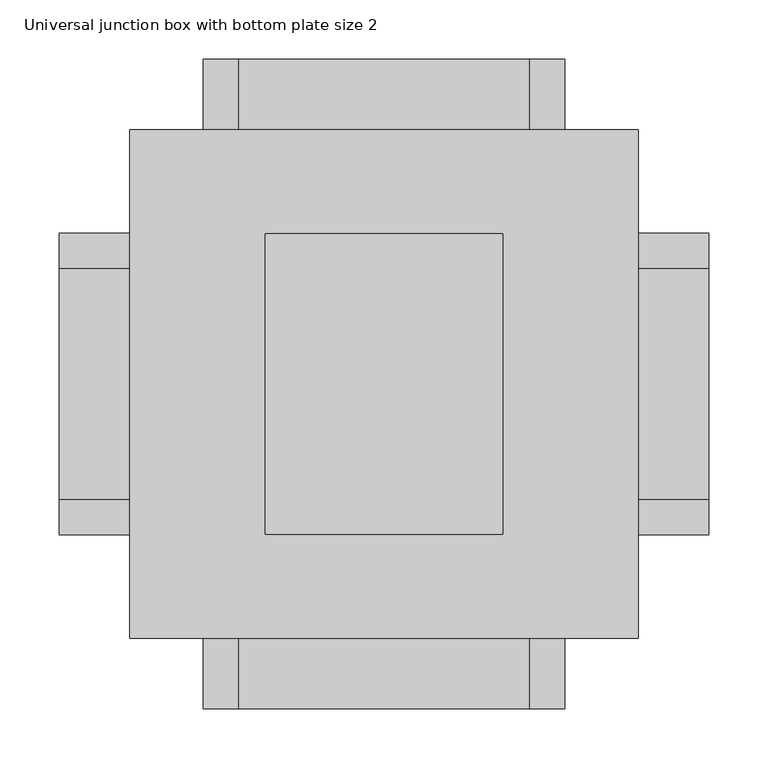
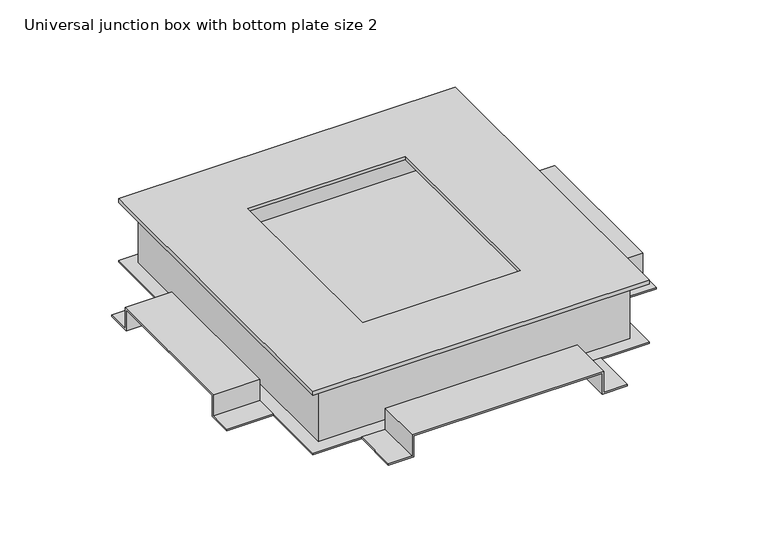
"""IFC4 building model written with IfcOpenShell, lengths in millimetres: cable carrier fitting geometry, Electrical-Installations_Hager_Universal-Junction-Box-With-Bottom-Plate-Size-2 : Universal junction box with bottom plate size 2."""

from ifc_helpers import new_model, si_unit, frame, origin, place, context, project, spatial, polyline, outline, extrude, faceted_brep, source, transform, mapped, element, save


def universal_junction_box_with_bottom_plate_size_2_3eebd924(model_context):
    return source(origin(), model_context, "Body", "SolidModel", [
        extrude(outline(polyline([(-14.0, -152.0), (-14.0, -120.0), (14.0, -120.0), (14.0, 120.0), (-14.0, 120.0), (-14.0, 152.0), (-12.0, 152.0), (-12.0, 122.0), (16.0, 122.0), (16.0, -122.0), (-12.0, -122.0), (-12.0, -152.0), (-14.0, -152.0)])), frame((0.0, 214.0, 0.0), z_axis=(0.0, 1.0, 0.0), x_axis=(0.0, 0.0, 1.0)), (0.0, 0.0, 1.0), 59.0),
        extrude(outline(polyline([(-127.0, -14.0), (-127.0, -12.0), (-97.0, -12.0), (-97.0, 16.0), (97.0, 16.0), (97.0, -12.0), (127.0, -12.0), (127.0, -14.0), (95.0, -14.0), (95.0, 14.0), (-95.0, 14.0), (-95.0, -14.0), (-127.0, -14.0)])), frame((-273.0, 0.0, 0.0), z_axis=(1.0, 0.0, 0.0), x_axis=(0.0, 1.0, 0.0)), (0.0, 0.0, 1.0), 59.0),
        extrude(outline(polyline([(-14.0, -152.0), (-14.0, -120.0), (14.0, -120.0), (14.0, 120.0), (-14.0, 120.0), (-14.0, 152.0), (-12.0, 152.0), (-12.0, 122.0), (16.0, 122.0), (16.0, -122.0), (-12.0, -122.0), (-12.0, -152.0), (-14.0, -152.0)])), frame((0.0, -273.0, 0.0), z_axis=(0.0, 1.0, 0.0), x_axis=(0.0, 0.0, 1.0)), (0.0, 0.0, 1.0), 59.0),
        extrude(outline(polyline([(-127.0, -14.0), (-127.0, -12.0), (-97.0, -12.0), (-97.0, 16.0), (97.0, 16.0), (97.0, -12.0), (127.0, -12.0), (127.0, -14.0), (95.0, -14.0), (95.0, 14.0), (-95.0, 14.0), (-95.0, -14.0), (-127.0, -14.0)])), frame((214.0, 0.0, 0.0), z_axis=(1.0, 0.0, 0.0), x_axis=(0.0, 1.0, 0.0)), (0.0, 0.0, 1.0), 59.0),
        faceted_brep([(-214.0, -214.0, 71.0), (214.0, -214.0, 71.0), (214.0, 214.0, 71.0), (-214.0, 214.0, 71.0), (-100.0, 126.5, 71.0), (100.0, 126.5, 71.0), (100.0, -126.5, 71.0), (-100.0, -126.5, 71.0), (-214.0, -214.0, 66.0), (-214.0, 214.0, 66.0), (214.0, 214.0, 66.0), (214.0, -214.0, 66.0), (192.0, 192.0, 66.0), (-192.0, 192.0, 66.0), (-192.0, -192.0, 66.0), (192.0, -192.0, 66.0), (-100.0, 126.5, 66.7820613), (100.0, 126.5, 66.7820613), (100.0, -126.5, 66.7820613), (-100.0, -126.5, 66.7820613), (192.0, 192.0, 66.7820613), (192.0, -192.0, 66.7820613), (-192.0, -192.0, 66.7820613), (-192.0, 192.0, 66.7820613)], [[[0, 1, 2, 3], [4, 5, 6, 7]], [[8, 9, 10, 11], [12, 13, 14, 15]], [[1, 0, 8, 11]], [[2, 1, 11, 10]], [[3, 2, 10, 9]], [[0, 3, 9, 8]], [[5, 4, 16, 17]], [[6, 5, 17, 18]], [[7, 6, 18, 19]], [[4, 7, 19, 16]], [[20, 21, 22, 23], [17, 16, 19, 18]], [[20, 23, 13, 12]], [[23, 22, 14, 13]], [[22, 21, 15, 14]], [[21, 20, 12, 15]]]),
        extrude(outline(polyline([(214.0, 214.0), (214.0, -214.0), (-214.0, -214.0), (-214.0, 214.0), (214.0, 214.0)])), frame((0.0, 0.0, -14.0), z_axis=(0.0, 0.0, 1.0), x_axis=(1.0, 0.0, 0.0)), (0.0, 0.0, 1.0), 2.0),
        faceted_brep([(-198.0, 198.0, 66.0), (-198.0, -198.0, 66.0), (198.0, -198.0, 66.0), (198.0, 198.0, 66.0), (-192.0, 192.0, 66.0), (192.0, 192.0, 66.0), (192.0, -192.0, 66.0), (-192.0, -192.0, 66.0), (-198.0, 198.0, -14.0), (198.0, 198.0, -14.0), (198.0, -198.0, -14.0), (-198.0, -198.0, -14.0), (192.0, 192.0, -6.1362798), (-192.0, 192.0, -6.1362798), (-192.0, -192.0, -6.1362798), (192.0, -192.0, -6.1362798)], [[[0, 1, 2, 3], [4, 5, 6, 7]], [[8, 9, 10, 11]], [[1, 0, 8, 11]], [[2, 1, 11, 10]], [[3, 2, 10, 9]], [[0, 3, 9, 8]], [[12, 13, 14, 15]], [[13, 12, 5, 4]], [[14, 13, 4, 7]], [[15, 14, 7, 6]], [[12, 15, 6, 5]]]),
    ])


if __name__ == "__main__":
    model = new_model("IFC4")
    model_context = context("Model", 3, world=origin())
    ifc_project = project(units=[si_unit("LENGTHUNIT", "METRE", prefix="MILLI")], contexts=[model_context])
    site = spatial("IfcSite", under=ifc_project)
    building = spatial("IfcBuilding", under=site)
    placement = place(None, origin())
    universal_junction_box_with_bottom_plate_size_2_shape = universal_junction_box_with_bottom_plate_size_2_3eebd924(model_context)
    element("IfcCableCarrierFitting", 1, ObjectType="Electrical-Installations_Hager_Universal-Junction-Box-With-Bottom-Plate-Size-2 : Universal junction box with bottom plate size 2", at=placement, inside=building, context=model_context, shape_type="MappedRepresentation", body=[
        mapped(universal_junction_box_with_bottom_plate_size_2_shape, transform((0.0, 0.0, 0.0), x_axis=(1.0, 0.0, 0.0), y_axis=(0.0, 1.0, 0.0), z_axis=(0.0, 0.0, 1.0))),
    ])
    save(model, "model.ifc")
